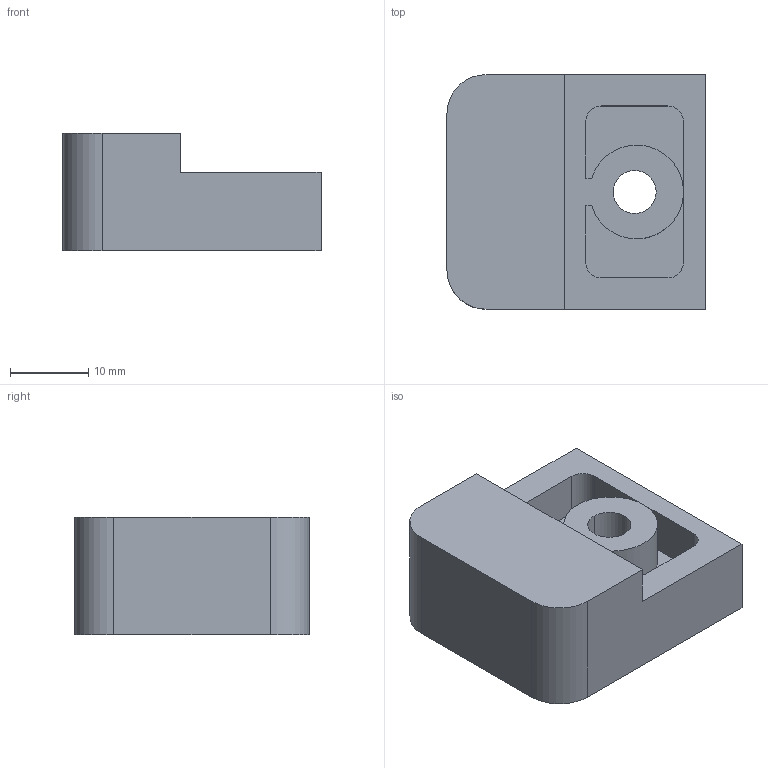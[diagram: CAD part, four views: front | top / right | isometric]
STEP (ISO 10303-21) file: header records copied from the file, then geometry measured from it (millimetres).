
FILE_DESCRIPTION (( 'STEP AP203' ), '1' );
FILE_NAME ('F043401.STEP', '2017-03-22T12:59:58', ( 'Localadmin' ), ( 'Microsoft' ), 'SwSTEP 2.0', 'SolidWorks 2016', '' );
FILE_SCHEMA (( 'CONFIG_CONTROL_DESIGN' ));
Length unit declared in the file: millimetre
Products named in the file (1): F043401
Bounding box: 33 x 30 x 15 mm (x, y, z)
Surface area: 4291.7 mm2 (no closed solid volume)
Topology: 0 solids, 1 shells, 32 faces, 82 edges, 51 vertices
Faces by surface type: plane 18, cylinder 12, cone 2
Entity records: 1047 total; most frequent: DIRECTION 172, CARTESIAN_POINT 167, ORIENTED_EDGE 160, EDGE_CURVE 82, VECTOR 58, LINE 58, AXIS2_PLACEMENT_3D 57, VERTEX_POINT 52
